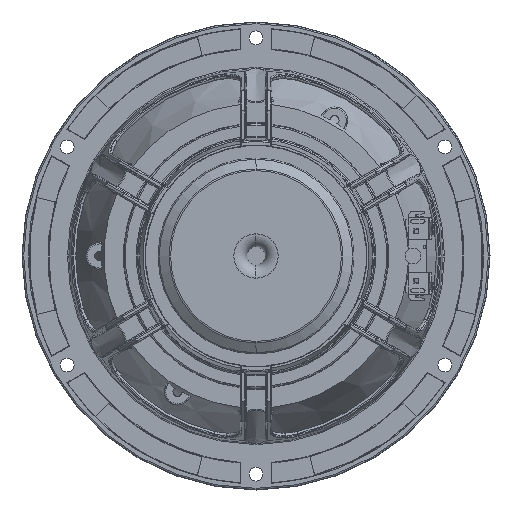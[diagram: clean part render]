
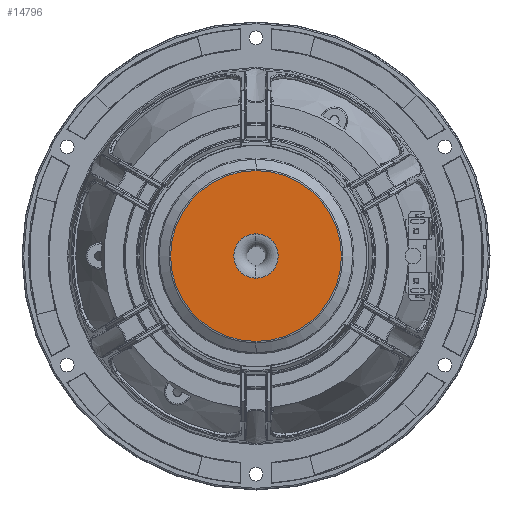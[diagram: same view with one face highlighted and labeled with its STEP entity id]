
A CAD part, front view. The second image highlights one B-rep face of the part: STEP entity #14796.
In plain terms, the highlighted planar face has unit normal (0, -1, 0).
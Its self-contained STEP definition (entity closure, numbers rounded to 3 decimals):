
#181 = CARTESIAN_POINT ( 'NONE',  ( 0., 0., 0. ) ) ;
#743 = CIRCLE ( 'NONE', #56996, 32.697 ) ;
#1912 = VERTEX_POINT ( 'NONE', #28034 ) ;
#2211 = ORIENTED_EDGE ( 'NONE', *, *, #53432, .T. ) ;
#2511 = CARTESIAN_POINT ( 'NONE',  ( 0., 0., 32.697 ) ) ;
#2752 = AXIS2_PLACEMENT_3D ( 'NONE', #42816, #12140, #8475 ) ;
#5093 = DIRECTION ( 'NONE',  ( 0., 0., -1. ) ) ;
#6832 = ORIENTED_EDGE ( 'NONE', *, *, #51892, .T. ) ;
#8050 = EDGE_LOOP ( 'NONE', ( #2211, #6832 ) ) ;
#8475 = DIRECTION ( 'NONE',  ( 0., 0., -1. ) ) ;
#10134 = DIRECTION ( 'NONE',  ( 0., 0., -1. ) ) ;
#12140 = DIRECTION ( 'NONE',  ( 0., -1., 0. ) ) ;
#14796 = ADVANCED_FACE ( 'NONE', ( #54777, #43498 ), #33279, .T. ) ;
#14905 = DIRECTION ( 'NONE',  ( 0., -1., 0. ) ) ;
#21018 = DIRECTION ( 'NONE',  ( 0., 1., 0. ) ) ;
#22038 = VERTEX_POINT ( 'NONE', #37496 ) ;
#23613 = AXIS2_PLACEMENT_3D ( 'NONE', #181, #21018, #5093 ) ;
#28034 = CARTESIAN_POINT ( 'NONE',  ( 0., 0., -32.697 ) ) ;
#29537 = CARTESIAN_POINT ( 'NONE',  ( 0., 0., -8.5 ) ) ;
#32508 = AXIS2_PLACEMENT_3D ( 'NONE', #58288, #41384, #68955 ) ;
#33279 = PLANE ( 'NONE',  #2752 ) ;
#37496 = CARTESIAN_POINT ( 'NONE',  ( 0., 0., 8.5 ) ) ;
#38662 = AXIS2_PLACEMENT_3D ( 'NONE', #52413, #52769, #10134 ) ;
#41384 = DIRECTION ( 'NONE',  ( 0., 1., 0. ) ) ;
#42237 = EDGE_CURVE ( 'NONE', #65377, #1912, #57711, .T. ) ;
#42816 = CARTESIAN_POINT ( 'NONE',  ( 3.5, 0., 0. ) ) ;
#43498 = FACE_OUTER_BOUND ( 'NONE', #54887, .T. ) ;
#43603 = VERTEX_POINT ( 'NONE', #29537 ) ;
#49349 = CIRCLE ( 'NONE', #32508, 8.5 ) ;
#50673 = EDGE_CURVE ( 'NONE', #1912, #65377, #743, .T. ) ;
#51692 = CIRCLE ( 'NONE', #23613, 8.5 ) ;
#51892 = EDGE_CURVE ( 'NONE', #22038, #43603, #49349, .T. ) ;
#52413 = CARTESIAN_POINT ( 'NONE',  ( 0., 0., 0. ) ) ;
#52769 = DIRECTION ( 'NONE',  ( 0., -1., 0. ) ) ;
#53432 = EDGE_CURVE ( 'NONE', #43603, #22038, #51692, .T. ) ;
#54777 = FACE_BOUND ( 'NONE', #8050, .T. ) ;
#54887 = EDGE_LOOP ( 'NONE', ( #66098, #68739 ) ) ;
#56996 = AXIS2_PLACEMENT_3D ( 'NONE', #68877, #14905, #57156 ) ;
#57156 = DIRECTION ( 'NONE',  ( 0., 0., -1. ) ) ;
#57711 = CIRCLE ( 'NONE', #38662, 32.697 ) ;
#58288 = CARTESIAN_POINT ( 'NONE',  ( 0., 0., 0. ) ) ;
#65377 = VERTEX_POINT ( 'NONE', #2511 ) ;
#66098 = ORIENTED_EDGE ( 'NONE', *, *, #50673, .T. ) ;
#68739 = ORIENTED_EDGE ( 'NONE', *, *, #42237, .T. ) ;
#68877 = CARTESIAN_POINT ( 'NONE',  ( 0., 0., 0. ) ) ;
#68955 = DIRECTION ( 'NONE',  ( 0., 0., -1. ) ) ;
